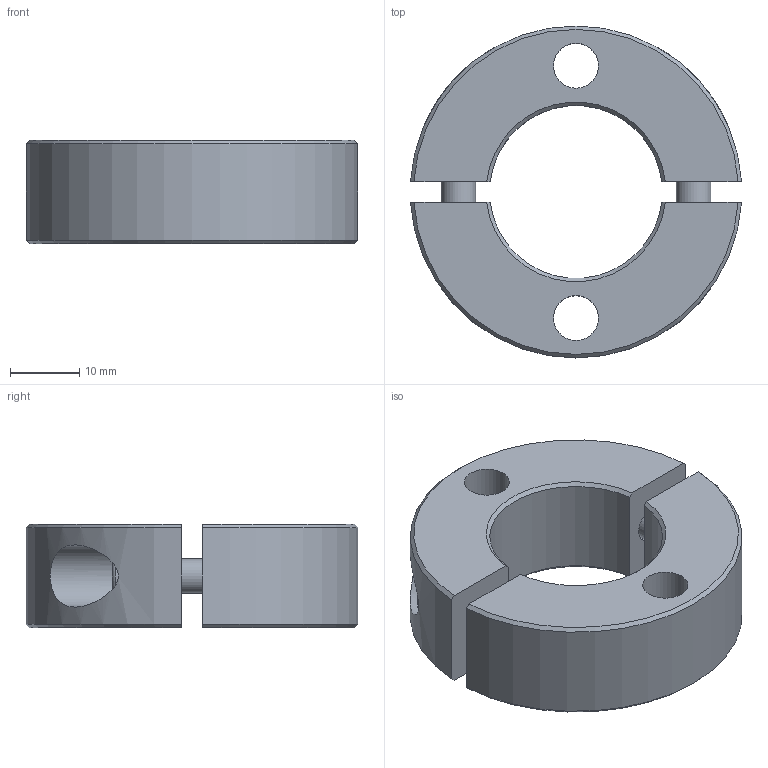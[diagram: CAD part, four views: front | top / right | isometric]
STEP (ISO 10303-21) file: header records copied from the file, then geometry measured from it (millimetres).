
FILE_DESCRIPTION( ( 'STEP AP203' ), '1' );
FILE_NAME( 'C:/Temp/Ganter_Step_05_03_2020/data/3_2/gn7072_2/Split Stainless Steel-Set collar GN 7072.2-48-B25-NI-A.stp', '2020-03-13T05:40:52', ( 'License CC BY-ND 4.0' ), ( 'CADENAS' ), ' ', 'PARTsolutions', ' ' );
FILE_SCHEMA( ( 'CONFIG_CONTROL_DESIGN' ) );
Length unit declared in the file: millimetre
Products named in the file (1): _Split Stainless Steel-Set collar GN 7072.2-48-B25-NI-A
Bounding box: 47.91 x 48 x 15 mm (x, y, z)
Volume: 16975.1 mm3; surface area: 7976 mm2
Topology: 1 solids, 1 shells, 52 faces, 124 edges, 84 vertices
Faces by surface type: plane 28, cylinder 14, cone 8, torus 2
Full cylindrical faces by diameter (mm): 5 x2, 5.4 x2, 6.5 x2, 8.5 x2, 9 x2
Entity records: 1616 total; most frequent: CARTESIAN_POINT 431, DIRECTION 230, ORIENTED_EDGE 212, EDGE_CURVE 106, AXIS2_PLACEMENT_3D 89, EDGE_LOOP 80, VERTEX_POINT 78, FACE_OUTER_BOUND 64
